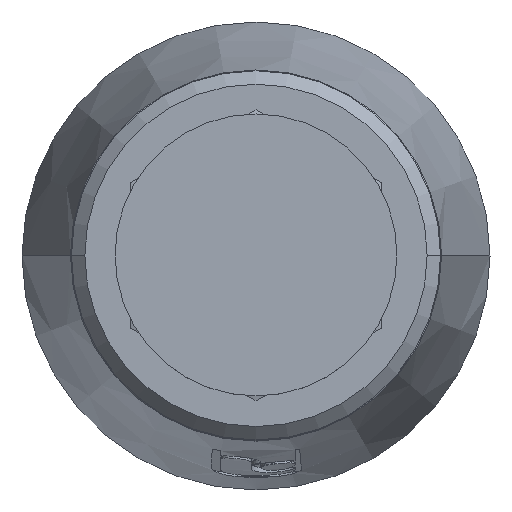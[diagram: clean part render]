
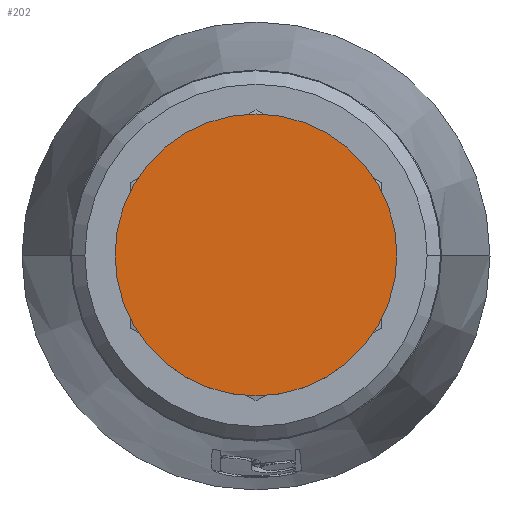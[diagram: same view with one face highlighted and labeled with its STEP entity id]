
A CAD part, top view. The second image highlights one B-rep face of the part: STEP entity #202.
In plain terms, the highlighted planar face has unit normal (0, 0, 1).
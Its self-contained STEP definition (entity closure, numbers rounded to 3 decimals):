
#202=ADVANCED_FACE('',(#490),#491,.T.);
#490=FACE_OUTER_BOUND('',#902,.T.);
#491=PLANE('',#903);
#902=EDGE_LOOP('',(#1291,#1292));
#903=AXIS2_PLACEMENT_3D('',#1293,#1294,#1295);
#1291=ORIENTED_EDGE('',*,*,#2352,.T.);
#1292=ORIENTED_EDGE('',*,*,#2354,.T.);
#1293=CARTESIAN_POINT('',(185.432,238.895,183.));
#1294=DIRECTION('',(0.,0.,1.0));
#1295=DIRECTION('',(1.0,0.,0.));
#2352=EDGE_CURVE('',#2772,#2776,#2778,.T.);
#2354=EDGE_CURVE('',#2776,#2772,#2780,.T.);
#2772=VERTEX_POINT('',#3384);
#2776=VERTEX_POINT('',#3389);
#2778=CIRCLE('',#3392,42.);
#2780=CIRCLE('',#3394,42.);
#3384=CARTESIAN_POINT('',(227.432,238.895,183.));
#3389=CARTESIAN_POINT('',(143.432,238.895,183.));
#3392=AXIS2_PLACEMENT_3D('',#4891,#4892,#4893);
#3394=AXIS2_PLACEMENT_3D('',#4894,#4895,#4896);
#4891=CARTESIAN_POINT('',(185.432,238.895,183.));
#4892=DIRECTION('',(0.,0.,1.0));
#4893=DIRECTION('',(1.0,0.,0.));
#4894=CARTESIAN_POINT('',(185.432,238.895,183.));
#4895=DIRECTION('',(0.,0.,1.0));
#4896=DIRECTION('',(1.0,0.,0.));
